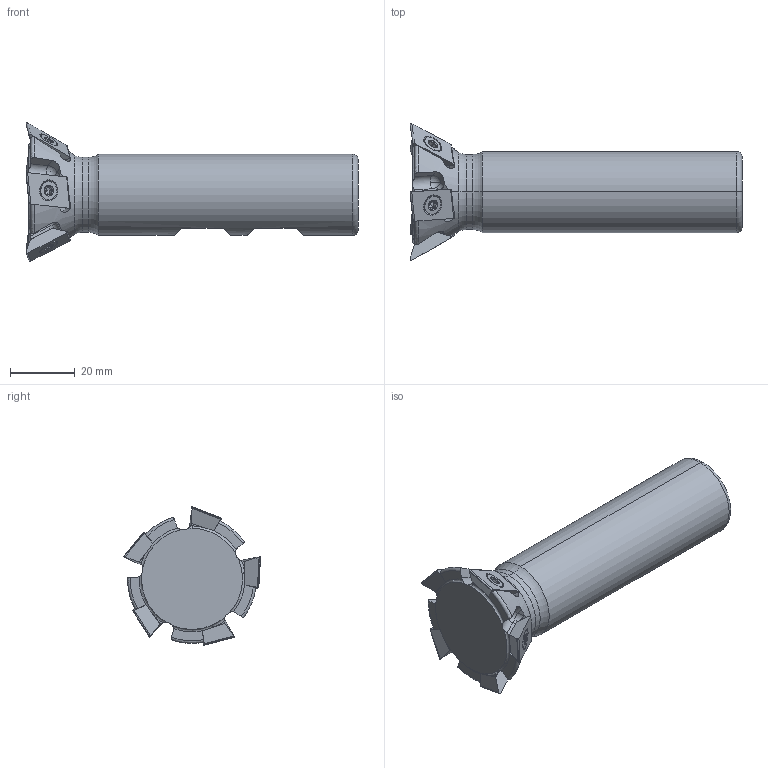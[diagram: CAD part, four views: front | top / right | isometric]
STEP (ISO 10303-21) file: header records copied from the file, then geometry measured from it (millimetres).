
FILE_DESCRIPTION (( 'STEP AP214' ), '1' );
FILE_NAME ('DC1750-60.STEP', '2018-01-26T21:24:28', ( '' ), ( '' ), 'SwSTEP 2.0', 'SolidWorks 2017', '' );
FILE_SCHEMA (( 'AUTOMOTIVE_DESIGN' ));
Length unit declared in the file: inch
Products named in the file (4): DC1750-60; DC1750-B REV A; DC1750-S REV B REMODEL_NO THREADS; DC1750-60B REV A_MILLOP1
Assembly tree (11 placements, depth 2):
  DC1750-60
    DC1750-60B REV A_MILLOP1
    DC1750-B REV A  x5
    DC1750-S REV B REMODEL_NO THREADS  x5
Bounding box: 102.32 x 42.27 x 42.66 mm (x, y, z)
Volume: 52811.4 mm3; surface area: 13187.9 mm2
Topology: 11 solids, 11 shells, 469 faces, 1151 edges, 666 vertices
Faces by surface type: cylinder 163, cone 148, plane 113, torus 37, sphere 8
Entity records: 6840 total; most frequent: CARTESIAN_POINT 1939, ORIENTED_EDGE 1034, DIRECTION 938, EDGE_CURVE 517, AXIS2_PLACEMENT_3D 361, VERTEX_POINT 324, VECTOR 216, LINE 216
